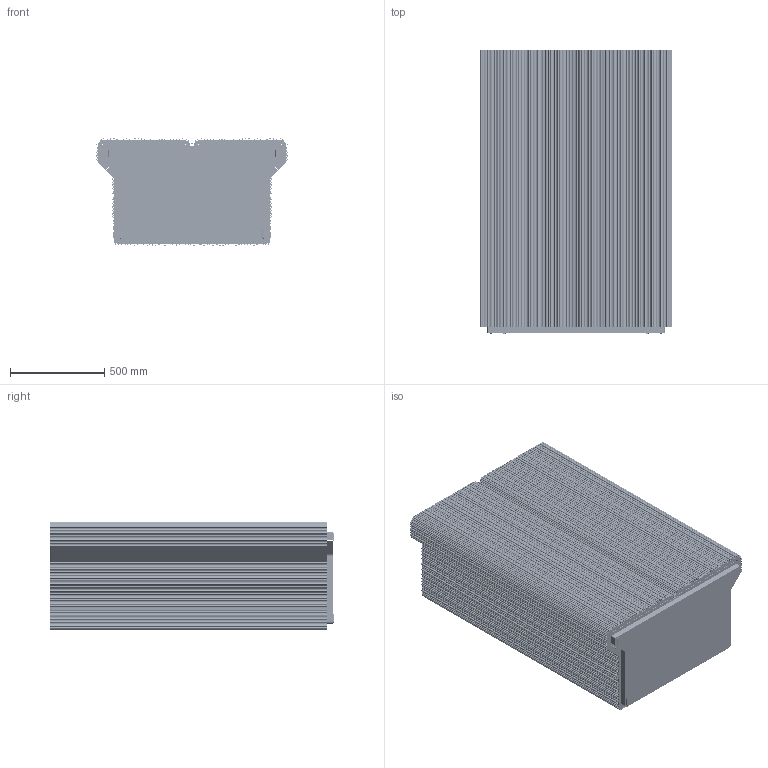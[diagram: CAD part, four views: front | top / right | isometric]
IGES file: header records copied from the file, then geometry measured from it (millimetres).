
Start section: SolidWorks IGES file using analytic representation for surfaces
Global section: file name: \\UTENTI\Dati Utenti\Tecnico\DC\2D - 3D per sito\3D\DeCastelli-3D-Canneto Cabinet.igs; native system: SolidWorks 2022; preprocessor: SolidWorks 2022; author: maria; date: 240710.171009; units: millimetre
Bounding box: 1020.51 x 1502.7 x 570.8 mm (x, y, z)
Surface area: 27650399.2 mm2 (no closed solid volume)
Topology: 0 solids, 0 shells, 2038 faces, 42081 edges, 42081 vertices
Faces by surface type: revolution 1366, bspline 672
